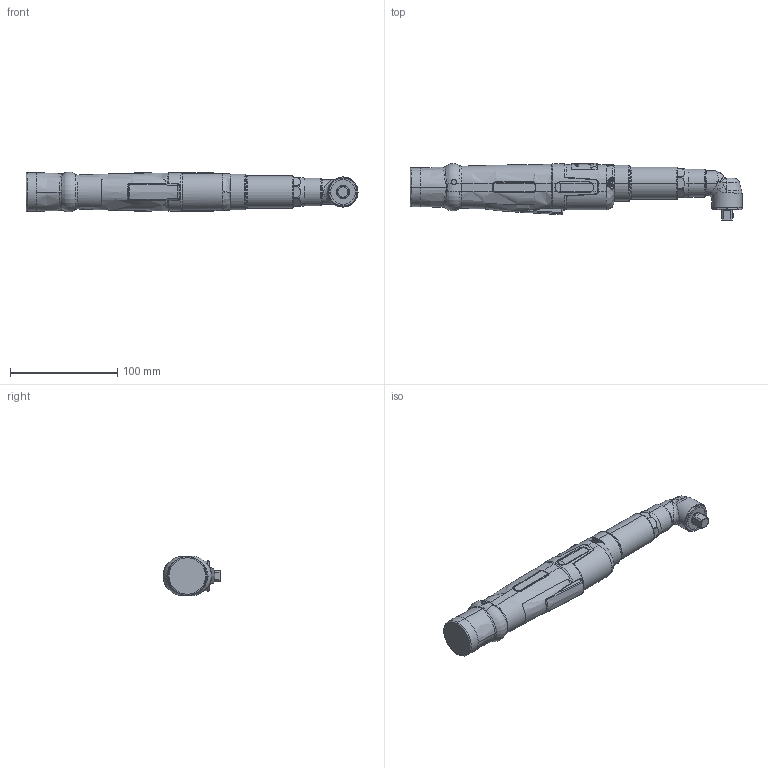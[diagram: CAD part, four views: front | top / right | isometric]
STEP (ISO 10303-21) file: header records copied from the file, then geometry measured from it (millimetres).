
FILE_DESCRIPTION (( 'STEP AP214' ), '1' );
FILE_NAME ('70141264_HSXK1015WV38.STEP', '2021-12-22T06:58:03', ( '' ), ( '' ), 'SwSTEP 2.0', 'SolidWorks 2020', '' );
FILE_SCHEMA (( 'AUTOMOTIVE_DESIGN' ));
Length unit declared in the file: millimetre
Products named in the file (5): 70141264_HSXK1015WV38; 70141200; 70141116; 70141212; 70141222
Assembly tree (4 placements, depth 2):
  70141264_HSXK1015WV38
    70141212
    70141116
    70141222
    70141200
Bounding box: 309.2 x 53.65 x 37 mm (x, y, z)
Volume: 300794 mm3; surface area: 53409.5 mm2
Topology: 4 solids, 5 shells, 950 faces, 2412 edges, 1499 vertices
Faces by surface type: cylinder 309, bspline 253, plane 202, torus 91, cone 66, sphere 29
Entity records: 48374 total; most frequent: CARTESIAN_POINT 25904, ORIENTED_EDGE 4788, DIRECTION 3921, EDGE_CURVE 2394, AXIS2_PLACEMENT_3D 1648, VERTEX_POINT 1497, EDGE_LOOP 997, ADVANCED_FACE 950
